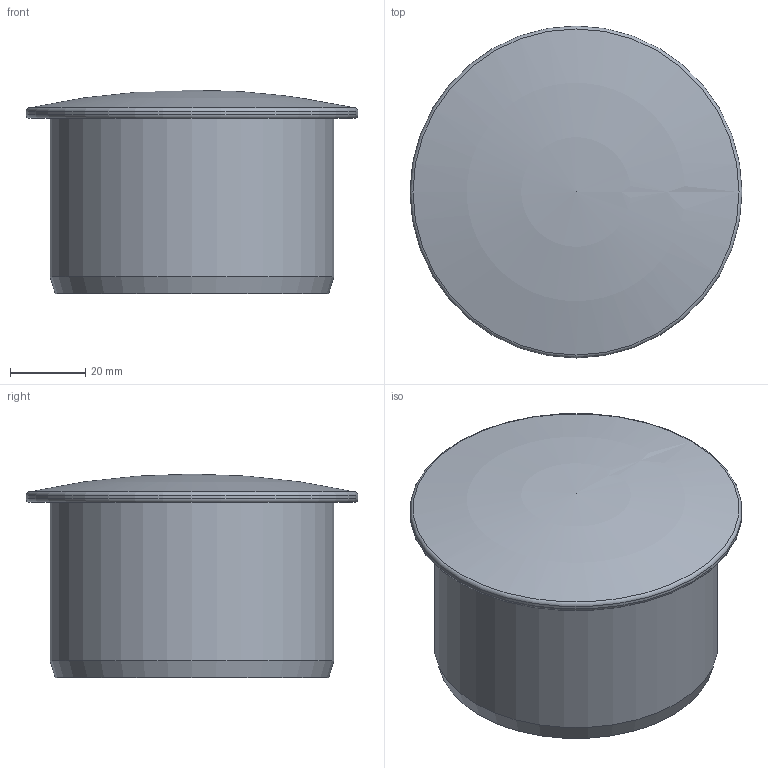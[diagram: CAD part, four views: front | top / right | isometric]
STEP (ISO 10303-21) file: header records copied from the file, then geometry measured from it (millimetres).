
FILE_DESCRIPTION(/* description */ (''),/* implementation_level */ '2;1');
FILE_NAME(/* name */ 'H:\Geberit-Teile\Export\Muffenstopfen ART\stp\390328.stp',/* time_stamp */ '2014-04-16T16:40:19+02:00',/* author */ ('seihe2'),/* organization */ (''),/* preprocessor_version */ 'ST-DEVELOPER v15.2',/* originating_system */ 'Autodesk Inventor 2014',/* authorisation */ '');
FILE_SCHEMA (('AUTOMOTIVE_DESIGN { 1 0 10303 214 3 1 1 }'));
Length unit declared in the file: millimetre
Products named in the file (1): 390328
Bounding box: 88 x 88 x 54 mm (x, y, z)
Volume: 44685.8 mm3; surface area: 34111.8 mm2
Topology: 1 solids, 1 shells, 10 faces, 21 edges, 13 vertices
Faces by surface type: cylinder 3, sphere 2, torus 2, plane 2, cone 1
Full cylindrical faces by diameter (mm): 70 x1, 75.2 x1, 88 x1
Entity records: 225 total; most frequent: DIRECTION 40, CARTESIAN_POINT 29, AXIS2_PLACEMENT_3D 20, EDGE_LOOP 18, ORIENTED_EDGE 18, STYLED_ITEM 11, FACE_OUTER_BOUND 10, ADVANCED_FACE 10
